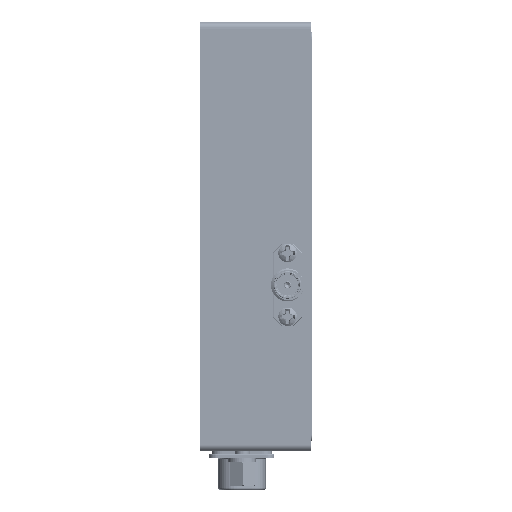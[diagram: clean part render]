
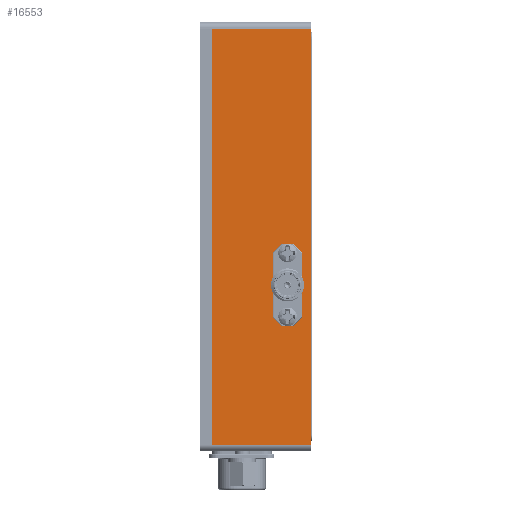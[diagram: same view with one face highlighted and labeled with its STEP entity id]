
A CAD part, left-side view. The second image highlights one B-rep face of the part: STEP entity #16553.
In plain terms, the highlighted planar face has unit normal (-1, 0, 0).
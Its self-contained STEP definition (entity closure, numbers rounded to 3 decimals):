
#3219 = CIRCLE ( 'NONE', #106365, 1.283 ) ;
#5545 = CARTESIAN_POINT ( 'NONE',  ( 0., 4.572, 39.218 ) ) ;
#7399 = LINE ( 'NONE', #164143, #98421 ) ;
#8174 = CARTESIAN_POINT ( 'NONE',  ( 0., 19.126, 81.28 ) ) ;
#8737 = DIRECTION ( 'NONE',  ( 0., 0., 1. ) ) ;
#8843 = EDGE_LOOP ( 'NONE', ( #142655, #116085 ) ) ;
#13095 = DIRECTION ( 'NONE',  ( 0., 0., 1. ) ) ;
#13296 = CARTESIAN_POINT ( 'NONE',  ( 0., 19.126, 1.27 ) ) ;
#13785 = PLANE ( 'NONE',  #33865 ) ;
#14108 = VERTEX_POINT ( 'NONE', #8174 ) ;
#14629 = DIRECTION ( 'NONE',  ( -1., 0., 0. ) ) ;
#16553 = ADVANCED_FACE ( 'NONE', ( #45855, #55367, #167815, #28576 ), #13785, .F. ) ;
#17164 = AXIS2_PLACEMENT_3D ( 'NONE', #37794, #22141, #78391 ) ;
#17178 = CIRCLE ( 'NONE', #61406, 1.092 ) ;
#19672 = CIRCLE ( 'NONE', #107977, 1.092 ) ;
#19943 = DIRECTION ( 'NONE',  ( 0., 0., -1. ) ) ;
#19946 = AXIS2_PLACEMENT_3D ( 'NONE', #97662, #14629, #154030 ) ;
#22141 = DIRECTION ( 'NONE',  ( -1., 0., 0. ) ) ;
#24071 = VERTEX_POINT ( 'NONE', #75382 ) ;
#25194 = CARTESIAN_POINT ( 'NONE',  ( 0., 19.126, 81.28 ) ) ;
#25843 = ORIENTED_EDGE ( 'NONE', *, *, #104285, .F. ) ;
#27727 = EDGE_LOOP ( 'NONE', ( #144300, #40674 ) ) ;
#28513 = ORIENTED_EDGE ( 'NONE', *, *, #163509, .T. ) ;
#28576 = FACE_OUTER_BOUND ( 'NONE', #29561, .T. ) ;
#29561 = EDGE_LOOP ( 'NONE', ( #120105, #89864, #25843, #28513 ) ) ;
#31494 = LINE ( 'NONE', #13296, #81967 ) ;
#32230 = VERTEX_POINT ( 'NONE', #5545 ) ;
#32622 = CARTESIAN_POINT ( 'NONE',  ( 0., 4.572, 25.883 ) ) ;
#33865 = AXIS2_PLACEMENT_3D ( 'NONE', #62319, #92695, #19943 ) ;
#35778 = CARTESIAN_POINT ( 'NONE',  ( 0., 4.572, 33.287 ) ) ;
#37794 = CARTESIAN_POINT ( 'NONE',  ( 0., 4.572, 38.125 ) ) ;
#40674 = ORIENTED_EDGE ( 'NONE', *, *, #177607, .F. ) ;
#45855 = FACE_BOUND ( 'NONE', #8843, .T. ) ;
#55367 = FACE_BOUND ( 'NONE', #27727, .T. ) ;
#56245 = EDGE_CURVE ( 'NONE', #164209, #104855, #174065, .T. ) ;
#61047 = CARTESIAN_POINT ( 'NONE',  ( 0., 4.572, 32.004 ) ) ;
#61174 = DIRECTION ( 'NONE',  ( 0., 0., 1. ) ) ;
#61406 = AXIS2_PLACEMENT_3D ( 'NONE', #32622, #118368, #61174 ) ;
#61715 = EDGE_CURVE ( 'NONE', #179043, #24071, #17178, .T. ) ;
#62319 = CARTESIAN_POINT ( 'NONE',  ( 0., 19.126, 1.27 ) ) ;
#65152 = EDGE_CURVE ( 'NONE', #14108, #134145, #138697, .T. ) ;
#65794 = DIRECTION ( 'NONE',  ( 0., -1., 0. ) ) ;
#69392 = CARTESIAN_POINT ( 'NONE',  ( 0., 4.572, 32.004 ) ) ;
#73113 = DIRECTION ( 'NONE',  ( -1., 0., 0. ) ) ;
#75382 = CARTESIAN_POINT ( 'NONE',  ( 0., 4.572, 24.79 ) ) ;
#75430 = VERTEX_POINT ( 'NONE', #107007 ) ;
#78391 = DIRECTION ( 'NONE',  ( 0., 0., 1. ) ) ;
#80203 = DIRECTION ( 'NONE',  ( 0., 0., 1. ) ) ;
#81967 = VECTOR ( 'NONE', #87721, 1000. ) ;
#87721 = DIRECTION ( 'NONE',  ( 0., -1., 0. ) ) ;
#89837 = VECTOR ( 'NONE', #8737, 1000. ) ;
#89864 = ORIENTED_EDGE ( 'NONE', *, *, #65152, .F. ) ;
#92695 = DIRECTION ( 'NONE',  ( 1., 0., 0. ) ) ;
#93695 = CARTESIAN_POINT ( 'NONE',  ( 0., 19.126, 1.27 ) ) ;
#95190 = VECTOR ( 'NONE', #65794, 1000. ) ;
#95570 = DIRECTION ( 'NONE',  ( 0., 0., 1. ) ) ;
#96453 = EDGE_LOOP ( 'NONE', ( #144798, #181445 ) ) ;
#97662 = CARTESIAN_POINT ( 'NONE',  ( 0., 4.572, 25.883 ) ) ;
#98421 = VECTOR ( 'NONE', #80203, 1000. ) ;
#104285 = EDGE_CURVE ( 'NONE', #118190, #14108, #160970, .T. ) ;
#104855 = VERTEX_POINT ( 'NONE', #35778 ) ;
#105094 = VERTEX_POINT ( 'NONE', #144529 ) ;
#106365 = AXIS2_PLACEMENT_3D ( 'NONE', #61047, #73113, #129425 ) ;
#107007 = CARTESIAN_POINT ( 'NONE',  ( 0., 0., 1.27 ) ) ;
#107977 = AXIS2_PLACEMENT_3D ( 'NONE', #150979, #181414, #95570 ) ;
#116085 = ORIENTED_EDGE ( 'NONE', *, *, #56245, .F. ) ;
#118190 = VERTEX_POINT ( 'NONE', #93695 ) ;
#118368 = DIRECTION ( 'NONE',  ( -1., 0., 0. ) ) ;
#120105 = ORIENTED_EDGE ( 'NONE', *, *, #143471, .T. ) ;
#123143 = CARTESIAN_POINT ( 'NONE',  ( 0., 4.572, 30.721 ) ) ;
#125640 = DIRECTION ( 'NONE',  ( -1., 0., 0. ) ) ;
#129425 = DIRECTION ( 'NONE',  ( 0., 0., 1. ) ) ;
#134145 = VERTEX_POINT ( 'NONE', #141255 ) ;
#138697 = LINE ( 'NONE', #25194, #95190 ) ;
#141255 = CARTESIAN_POINT ( 'NONE',  ( 0., 0., 81.28 ) ) ;
#142655 = ORIENTED_EDGE ( 'NONE', *, *, #175639, .F. ) ;
#143471 = EDGE_CURVE ( 'NONE', #75430, #134145, #7399, .T. ) ;
#144300 = ORIENTED_EDGE ( 'NONE', *, *, #61715, .F. ) ;
#144529 = CARTESIAN_POINT ( 'NONE',  ( 0., 4.572, 37.033 ) ) ;
#144798 = ORIENTED_EDGE ( 'NONE', *, *, #177186, .F. ) ;
#146614 = CIRCLE ( 'NONE', #19946, 1.092 ) ;
#147169 = CARTESIAN_POINT ( 'NONE',  ( 0., 19.126, 1.27 ) ) ;
#150979 = CARTESIAN_POINT ( 'NONE',  ( 0., 4.572, 38.125 ) ) ;
#154030 = DIRECTION ( 'NONE',  ( 0., 0., 1. ) ) ;
#160970 = LINE ( 'NONE', #147169, #89837 ) ;
#162209 = AXIS2_PLACEMENT_3D ( 'NONE', #69392, #125640, #13095 ) ;
#163509 = EDGE_CURVE ( 'NONE', #118190, #75430, #31494, .T. ) ;
#164143 = CARTESIAN_POINT ( 'NONE',  ( 0., 0., 1.27 ) ) ;
#164209 = VERTEX_POINT ( 'NONE', #123143 ) ;
#167815 = FACE_BOUND ( 'NONE', #96453, .T. ) ;
#170323 = CIRCLE ( 'NONE', #17164, 1.092 ) ;
#174065 = CIRCLE ( 'NONE', #162209, 1.283 ) ;
#174926 = EDGE_CURVE ( 'NONE', #105094, #32230, #170323, .T. ) ;
#175639 = EDGE_CURVE ( 'NONE', #104855, #164209, #3219, .T. ) ;
#177186 = EDGE_CURVE ( 'NONE', #32230, #105094, #19672, .T. ) ;
#177607 = EDGE_CURVE ( 'NONE', #24071, #179043, #146614, .T. ) ;
#179043 = VERTEX_POINT ( 'NONE', #179156 ) ;
#179156 = CARTESIAN_POINT ( 'NONE',  ( 0., 4.572, 26.975 ) ) ;
#181414 = DIRECTION ( 'NONE',  ( -1., 0., 0. ) ) ;
#181445 = ORIENTED_EDGE ( 'NONE', *, *, #174926, .F. ) ;
